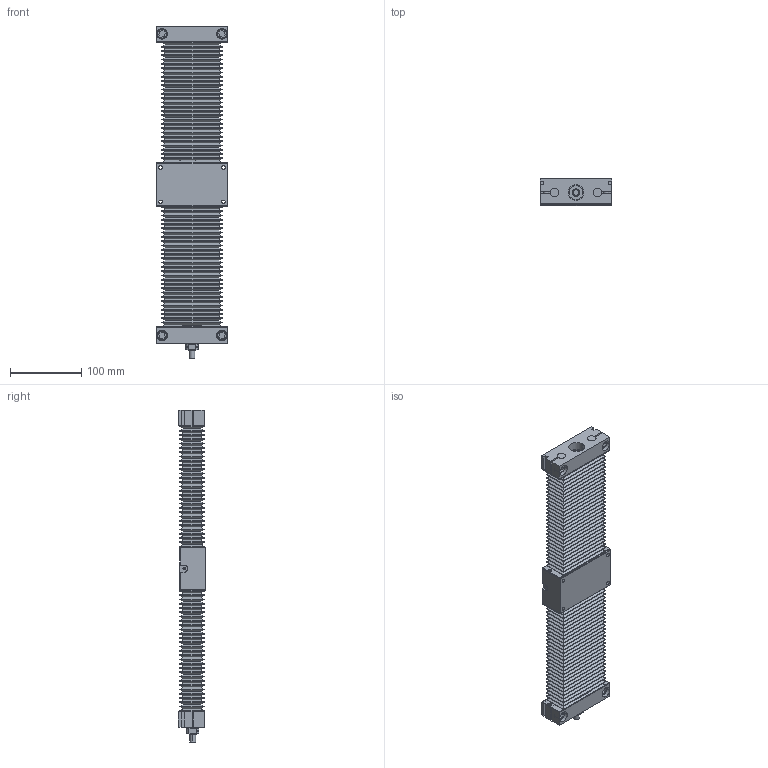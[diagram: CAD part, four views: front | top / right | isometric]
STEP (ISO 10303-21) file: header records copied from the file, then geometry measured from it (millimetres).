
FILE_DESCRIPTION (( 'STEP AP214' ), '1' );
FILE_NAME ('TKC1204B-200H0C-Ä£×é.step', '2025-10-10T09:43:58', ( '' ), ( '' ), 'SwSTEP 2.0', 'SolidWorks 2024', '' );
FILE_SCHEMA (( 'AUTOMOTIVE_DESIGN' ));
Length unit declared in the file: millimetre
Products named in the file (4): TKC1204B-200H0C-模组; TKC12-200-01; TKC12-200-03; TKC12-02
Assembly tree (4 placements, depth 2):
  TKC1204B-200H0C-模组
    TKC12-02
    TKC12-200-01
    TKC12-200-03  x2
Bounding box: 100 x 38 x 464.5 mm (x, y, z)
Volume: 844890 mm3; surface area: 358768.2 mm2
Topology: 14 solids, 14 shells, 1398 faces, 3149 edges, 1827 vertices
Faces by surface type: plane 973, cylinder 340, cone 46, torus 28, bspline 11
Entity records: 37178 total; most frequent: CARTESIAN_POINT 13526, ORIENTED_EDGE 4754, DIRECTION 4689, EDGE_CURVE 2377, VECTOR 1575, LINE 1575, AXIS2_PLACEMENT_3D 1557, VERTEX_POINT 1443
